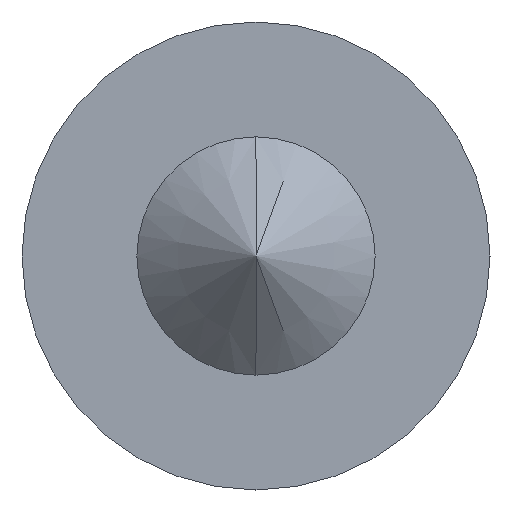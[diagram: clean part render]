
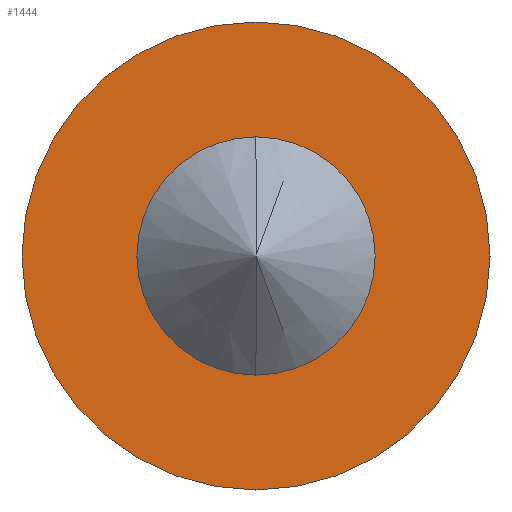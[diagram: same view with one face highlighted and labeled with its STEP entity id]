
A CAD part, left-side view. The second image highlights one B-rep face of the part: STEP entity #1444.
In plain terms, the highlighted planar face has unit normal (-1, 0, 0).
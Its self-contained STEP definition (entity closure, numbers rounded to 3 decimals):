
#55 = EDGE_CURVE ( 'NONE', #1521, #205, #977, .T. ) ;
#67 = CARTESIAN_POINT ( 'NONE',  ( -4.545, 0., 2.75 ) ) ;
#81 = DIRECTION ( 'NONE',  ( 0., 0., 1. ) ) ;
#109 = ORIENTED_EDGE ( 'NONE', *, *, #55, .T. ) ;
#116 = DIRECTION ( 'NONE',  ( 0., 0., 1. ) ) ;
#177 = EDGE_CURVE ( 'NONE', #2240, #2087, #556, .T. ) ;
#205 = VERTEX_POINT ( 'NONE', #968 ) ;
#275 = CARTESIAN_POINT ( 'NONE',  ( -4.545, 0., 0. ) ) ;
#297 = CARTESIAN_POINT ( 'NONE',  ( -4.545, 0., 1.1 ) ) ;
#299 = CIRCLE ( 'NONE', #2210, 2.75 ) ;
#357 = CARTESIAN_POINT ( 'NONE',  ( -4.545, 0., 0. ) ) ;
#435 = CARTESIAN_POINT ( 'NONE',  ( -4.545, 0., -1.1 ) ) ;
#513 = EDGE_CURVE ( 'NONE', #205, #1521, #299, .T. ) ;
#530 = DIRECTION ( 'NONE',  ( 0., 0., 1. ) ) ;
#542 = DIRECTION ( 'NONE',  ( 1., 0., 0. ) ) ;
#549 = DIRECTION ( 'NONE',  ( 0., 0., 1. ) ) ;
#556 = CIRCLE ( 'NONE', #1056, 1.1 ) ;
#558 = DIRECTION ( 'NONE',  ( -1., 0., 0. ) ) ;
#887 = CARTESIAN_POINT ( 'NONE',  ( -4.545, 0., 0. ) ) ;
#929 = EDGE_CURVE ( 'NONE', #2087, #2240, #2222, .T. ) ;
#968 = CARTESIAN_POINT ( 'NONE',  ( -4.545, 0., -2.75 ) ) ;
#977 = CIRCLE ( 'NONE', #1972, 2.75 ) ;
#1008 = DIRECTION ( 'NONE',  ( -1., 0., 0. ) ) ;
#1056 = AXIS2_PLACEMENT_3D ( 'NONE', #275, #1008, #81 ) ;
#1097 = ORIENTED_EDGE ( 'NONE', *, *, #177, .F. ) ;
#1115 = FACE_BOUND ( 'NONE', #1879, .T. ) ;
#1444 = ADVANCED_FACE ( 'NONE', ( #1115, #2149 ), #1663, .F. ) ;
#1521 = VERTEX_POINT ( 'NONE', #67 ) ;
#1663 = PLANE ( 'NONE',  #1891 ) ;
#1693 = AXIS2_PLACEMENT_3D ( 'NONE', #357, #2044, #549 ) ;
#1767 = DIRECTION ( 'NONE',  ( 0., 0., -1. ) ) ;
#1778 = ORIENTED_EDGE ( 'NONE', *, *, #513, .T. ) ;
#1845 = ORIENTED_EDGE ( 'NONE', *, *, #929, .F. ) ;
#1879 = EDGE_LOOP ( 'NONE', ( #1097, #1845 ) ) ;
#1891 = AXIS2_PLACEMENT_3D ( 'NONE', #2147, #542, #1767 ) ;
#1935 = DIRECTION ( 'NONE',  ( -1., 0., 0. ) ) ;
#1937 = EDGE_LOOP ( 'NONE', ( #109, #1778 ) ) ;
#1972 = AXIS2_PLACEMENT_3D ( 'NONE', #887, #1935, #116 ) ;
#2008 = CARTESIAN_POINT ( 'NONE',  ( -4.545, 0., 0. ) ) ;
#2044 = DIRECTION ( 'NONE',  ( -1., 0., 0. ) ) ;
#2087 = VERTEX_POINT ( 'NONE', #435 ) ;
#2147 = CARTESIAN_POINT ( 'NONE',  ( -4.545, 2.75, 0. ) ) ;
#2149 = FACE_OUTER_BOUND ( 'NONE', #1937, .T. ) ;
#2210 = AXIS2_PLACEMENT_3D ( 'NONE', #2008, #558, #530 ) ;
#2222 = CIRCLE ( 'NONE', #1693, 1.1 ) ;
#2240 = VERTEX_POINT ( 'NONE', #297 ) ;
